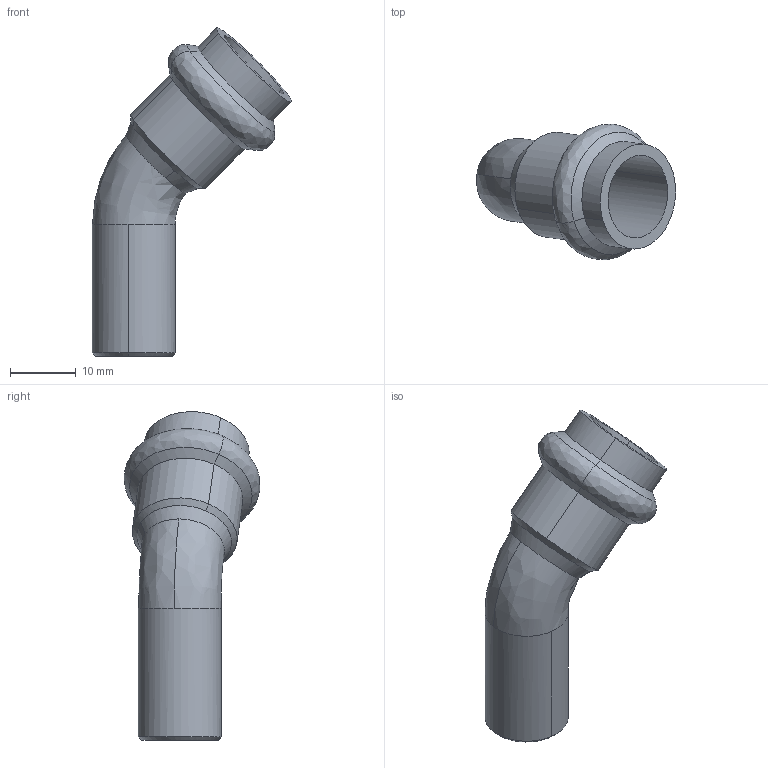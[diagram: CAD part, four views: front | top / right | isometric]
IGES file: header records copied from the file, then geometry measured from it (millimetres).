
Start section: 3D InterOp IGES (Version 25 0 1), Spatial Corp. Copyright (c) 1999-2007.
Global section: file name: pim0004550.igs; native system: Spatial Corp.; preprocessor: 3D InterOp ACIS/IGES; author: Cad-Pim; organization: TransMagic, Inc.; date: 20150430.172132; units: millimetre
Bounding box: 30.21 x 20.55 x 49.83 mm (x, y, z)
Volume: 6165.9 mm3; surface area: 3459.4 mm2
Topology: 1 solids, 1 shells, 25 faces, 67 edges, 45 vertices
Faces by surface type: cone 10, cylinder 8, bspline 7
